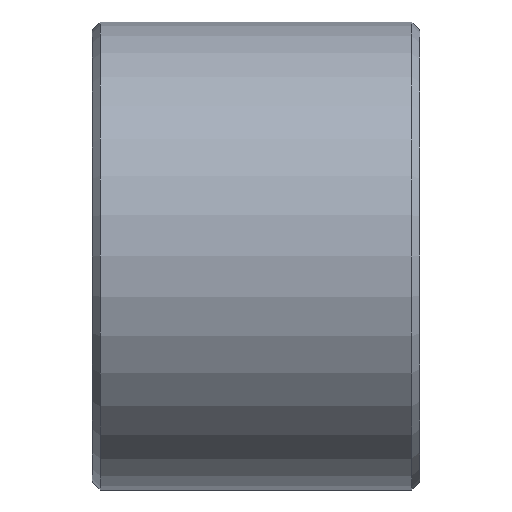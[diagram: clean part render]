
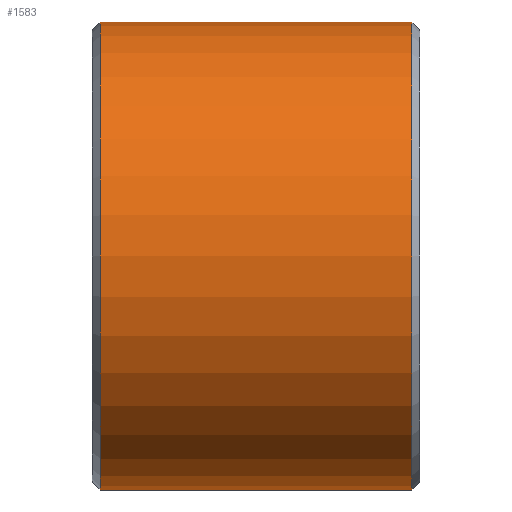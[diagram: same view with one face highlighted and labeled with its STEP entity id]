
A CAD part, front view. The second image highlights one B-rep face of the part: STEP entity #1583.
In plain terms, the highlighted cylindrical face has radius 15 mm (diameter 30 mm), a partial arc.
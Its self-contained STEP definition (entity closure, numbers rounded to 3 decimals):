
#83=DIRECTION('',(1.,0.,0.));
#84=VECTOR('',#83,20.);
#85=CARTESIAN_POINT('',(-10.,0.,-15.));
#86=LINE('',#85,#84);
#129=CARTESIAN_POINT('',(10.,0.,0.));
#130=DIRECTION('',(1.,0.,0.));
#131=DIRECTION('',(0.,0.,1.));
#132=AXIS2_PLACEMENT_3D('',#129,#130,#131);
#134=CARTESIAN_POINT('',(-10.,0.,0.));
#135=DIRECTION('',(-1.,0.,0.));
#136=DIRECTION('',(0.,0.,-1.));
#137=AXIS2_PLACEMENT_3D('',#134,#135,#136);
#139=DIRECTION('',(1.,0.,0.));
#140=VECTOR('',#139,20.);
#141=CARTESIAN_POINT('',(-10.,0.,
15.));
#142=LINE('',#141,#140);
#1450=CARTESIAN_POINT('',(10.,0.,15.));
#1451=CARTESIAN_POINT('',(10.,0.,-15.));
#1452=VERTEX_POINT('',#1450);
#1453=VERTEX_POINT('',#1451);
#1458=CARTESIAN_POINT('',(-10.,0.,-15.));
#1459=CARTESIAN_POINT('',(-10.,0.,15.));
#1460=VERTEX_POINT('',#1458);
#1461=VERTEX_POINT('',#1459);
#1572=CARTESIAN_POINT('',(-10.5,0.,0.));
#1573=DIRECTION('',(1.,0.,0.));
#1574=DIRECTION('',(0.,0.,-1.));
#1575=AXIS2_PLACEMENT_3D('',#1572,#1573,#1574);
#1576=CYLINDRICAL_SURFACE('',#1575,15.);
#1577=ORIENTED_EDGE('',*,*,#1566,.T.);
#1578=ORIENTED_EDGE('',*,*,#1520,.F.);
#1579=ORIENTED_EDGE('',*,*,#1490,.T.);
#1580=ORIENTED_EDGE('',*,*,#1517,.T.);
#1581=EDGE_LOOP('',(#1577,#1578,#1579,#1580));
#1582=FACE_OUTER_BOUND('',#1581,.F.);
#1583=ADVANCED_FACE('',(#1582),#1576,.T.);
#133=CIRCLE('',#132,15.);
#138=CIRCLE('',#137,15.);
#1490=EDGE_CURVE('',#1460,#1461,#138,.T.);
#1517=EDGE_CURVE('',#1461,#1452,#142,.T.);
#1520=EDGE_CURVE('',#1460,#1453,#86,.T.);
#1566=EDGE_CURVE('',#1452,#1453,#133,.T.);
